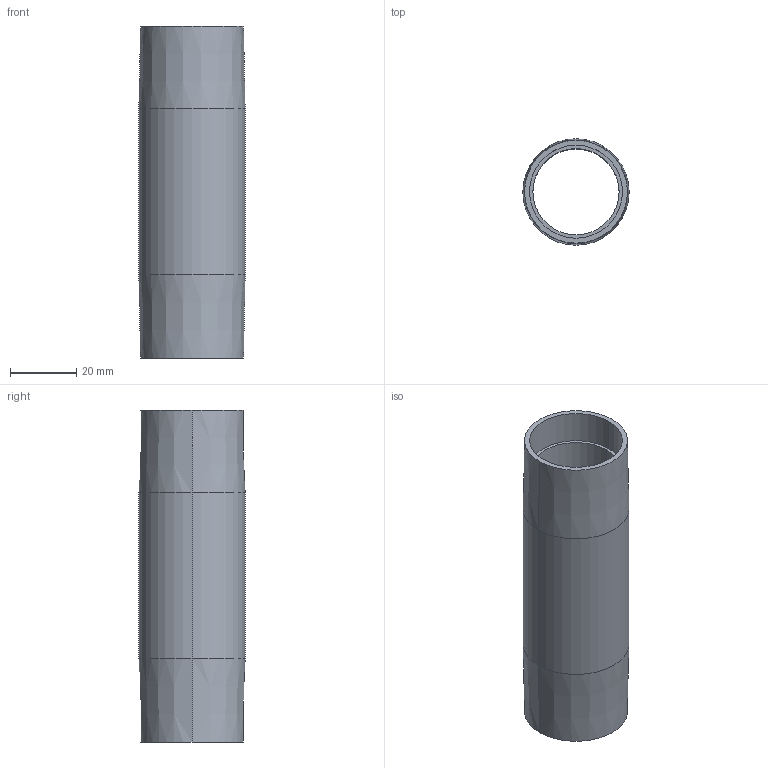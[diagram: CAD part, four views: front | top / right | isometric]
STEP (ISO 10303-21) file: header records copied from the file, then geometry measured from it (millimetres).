
FILE_DESCRIPTION (( 'STEP AP214' ), '1' );
FILE_NAME ('084.030.113.STEP', '2021-02-05T15:35:28', ( '' ), ( '' ), 'SwSTEP 2.0', 'SolidWorks 2018', '' );
FILE_SCHEMA (( 'AUTOMOTIVE_DESIGN' ));
Length unit declared in the file: millimetre
Products named in the file (1): 084.030.113
Bounding box: 32 x 32 x 100 mm (x, y, z)
Volume: 24391.8 mm3; surface area: 18717 mm2
Topology: 1 solids, 1 shells, 16 faces, 32 edges, 20 vertices
Faces by surface type: cylinder 8, cone 4, plane 4
Entity records: 462 total; most frequent: DIRECTION 86, CARTESIAN_POINT 69, ORIENTED_EDGE 64, AXIS2_PLACEMENT_3D 37, EDGE_CURVE 32, CIRCLE 20, EDGE_LOOP 20, VERTEX_POINT 20
